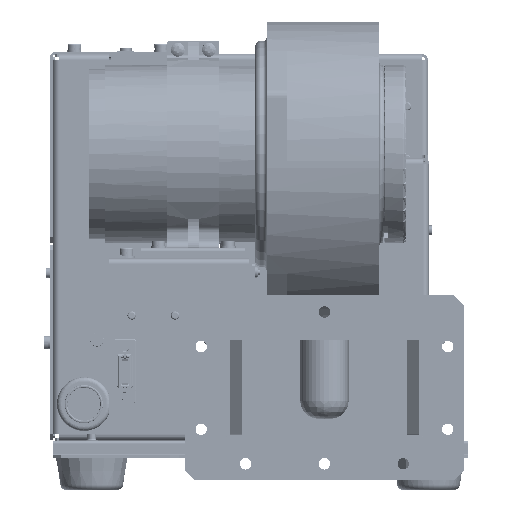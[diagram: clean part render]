
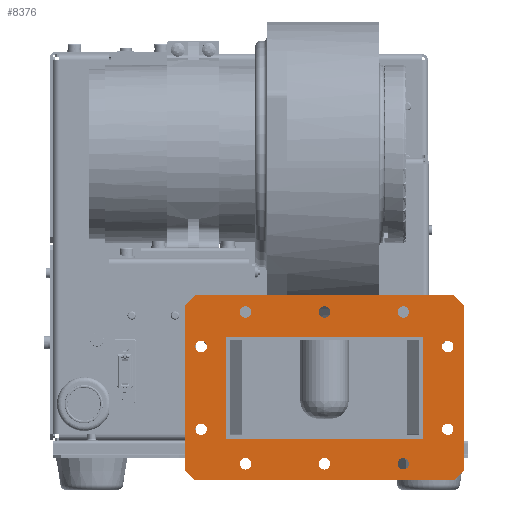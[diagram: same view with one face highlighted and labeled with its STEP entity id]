
A CAD part, front view. The second image highlights one B-rep face of the part: STEP entity #8376.
In plain terms, the highlighted planar face has unit normal (0, -1, 0) as drawn and (0, 0, 1) by its records, which use the part's own axes.
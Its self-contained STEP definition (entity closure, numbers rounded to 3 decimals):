
#8376=ADVANCED_FACE('',(#18040,#18041,#18042,#18043,#18044,#18045,#18046,#18047,#18048,#18049,#18050,#18051),#18052,.T.);
#18040=FACE_BOUND('',#30594,.T.);
#18041=FACE_BOUND('',#30595,.T.);
#18042=FACE_BOUND('',#30596,.T.);
#18043=FACE_BOUND('',#30597,.T.);
#18044=FACE_BOUND('',#30598,.T.);
#18045=FACE_BOUND('',#30599,.T.);
#18046=FACE_BOUND('',#30600,.T.);
#18047=FACE_BOUND('',#30601,.T.);
#18048=FACE_BOUND('',#30602,.T.);
#18049=FACE_BOUND('',#30603,.T.);
#18050=FACE_OUTER_BOUND('',#30604,.T.);
#18051=FACE_BOUND('',#30605,.T.);
#18052=PLANE('',#30606);
#30594=EDGE_LOOP('',(#47385));
#30595=EDGE_LOOP('',(#47386));
#30596=EDGE_LOOP('',(#47387));
#30597=EDGE_LOOP('',(#47388));
#30598=EDGE_LOOP('',(#47389));
#30599=EDGE_LOOP('',(#47390));
#30600=EDGE_LOOP('',(#47391));
#30601=EDGE_LOOP('',(#47392));
#30602=EDGE_LOOP('',(#47393));
#30603=EDGE_LOOP('',(#47394));
#30604=EDGE_LOOP('',(#47395,#47396,#47397,#47398,#47399,#47400,#47401,#47402));
#30605=EDGE_LOOP('',(#47403,#47404,#47405,#47406));
#30606=AXIS2_PLACEMENT_3D('',#47407,#47408,#47409);
#47385=ORIENTED_EDGE('',*,*,#74450,.T.);
#47386=ORIENTED_EDGE('',*,*,#74451,.T.);
#47387=ORIENTED_EDGE('',*,*,#74452,.T.);
#47388=ORIENTED_EDGE('',*,*,#74453,.T.);
#47389=ORIENTED_EDGE('',*,*,#74454,.T.);
#47390=ORIENTED_EDGE('',*,*,#74455,.T.);
#47391=ORIENTED_EDGE('',*,*,#74456,.T.);
#47392=ORIENTED_EDGE('',*,*,#74457,.T.);
#47393=ORIENTED_EDGE('',*,*,#74458,.T.);
#47394=ORIENTED_EDGE('',*,*,#74459,.T.);
#47395=ORIENTED_EDGE('',*,*,#74460,.T.);
#47396=ORIENTED_EDGE('',*,*,#74461,.T.);
#47397=ORIENTED_EDGE('',*,*,#74462,.T.);
#47398=ORIENTED_EDGE('',*,*,#74435,.T.);
#47399=ORIENTED_EDGE('',*,*,#74463,.T.);
#47400=ORIENTED_EDGE('',*,*,#74440,.T.);
#47401=ORIENTED_EDGE('',*,*,#74464,.T.);
#47402=ORIENTED_EDGE('',*,*,#74445,.T.);
#47403=ORIENTED_EDGE('',*,*,#74465,.T.);
#47404=ORIENTED_EDGE('',*,*,#74466,.T.);
#47405=ORIENTED_EDGE('',*,*,#74467,.T.);
#47406=ORIENTED_EDGE('',*,*,#74468,.T.);
#47407=CARTESIAN_POINT('',(-25.0,-19.444,7.0));
#47408=DIRECTION('',(0.0,0.0,1.0));
#47409=DIRECTION('',(1.0,0.0,0.0));
#74435=EDGE_CURVE('',#84312,#84313,#84314,.F.);
#74440=EDGE_CURVE('',#84321,#84322,#84323,.F.);
#74445=EDGE_CURVE('',#84330,#84331,#84332,.F.);
#74450=EDGE_CURVE('',#84339,#84339,#84340,.F.);
#74451=EDGE_CURVE('',#84341,#84341,#84342,.F.);
#74452=EDGE_CURVE('',#84343,#84343,#84344,.F.);
#74453=EDGE_CURVE('',#84345,#84345,#84346,.F.);
#74454=EDGE_CURVE('',#84347,#84347,#84348,.F.);
#74455=EDGE_CURVE('',#84349,#84349,#84350,.F.);
#74456=EDGE_CURVE('',#84351,#84351,#84352,.F.);
#74457=EDGE_CURVE('',#84353,#84353,#84354,.F.);
#74458=EDGE_CURVE('',#84355,#84355,#84356,.F.);
#74459=EDGE_CURVE('',#84357,#84357,#84358,.F.);
#74460=EDGE_CURVE('',#84331,#84359,#84360,.T.);
#74461=EDGE_CURVE('',#84359,#84361,#84362,.F.);
#74462=EDGE_CURVE('',#84361,#84312,#84363,.T.);
#74463=EDGE_CURVE('',#84313,#84321,#84364,.T.);
#74464=EDGE_CURVE('',#84322,#84330,#84365,.T.);
#74465=EDGE_CURVE('',#84366,#84367,#84368,.T.);
#74466=EDGE_CURVE('',#84367,#84369,#84370,.T.);
#74467=EDGE_CURVE('',#84369,#84371,#84372,.T.);
#74468=EDGE_CURVE('',#84371,#84366,#84373,.T.);
#84312=VERTEX_POINT('',#98393);
#84313=VERTEX_POINT('',#98394);
#84314=LINE('',#98395,#98396);
#84321=VERTEX_POINT('',#98406);
#84322=VERTEX_POINT('',#98407);
#84323=LINE('',#98408,#98409);
#84330=VERTEX_POINT('',#98419);
#84331=VERTEX_POINT('',#98420);
#84332=LINE('',#98421,#98422);
#84339=VERTEX_POINT('',#98432);
#84340=CIRCLE('',#98433,3.3);
#84341=VERTEX_POINT('',#98434);
#84342=CIRCLE('',#98435,3.3);
#84343=VERTEX_POINT('',#98436);
#84344=CIRCLE('',#98437,3.3);
#84345=VERTEX_POINT('',#98438);
#84346=CIRCLE('',#98439,3.3);
#84347=VERTEX_POINT('',#98440);
#84348=CIRCLE('',#98441,3.3);
#84349=VERTEX_POINT('',#98442);
#84350=CIRCLE('',#98443,3.3);
#84351=VERTEX_POINT('',#98444);
#84352=CIRCLE('',#98445,3.3);
#84353=VERTEX_POINT('',#98446);
#84354=CIRCLE('',#98447,3.3);
#84355=VERTEX_POINT('',#98448);
#84356=CIRCLE('',#98449,3.3);
#84357=VERTEX_POINT('',#98450);
#84358=CIRCLE('',#98451,3.3);
#84359=VERTEX_POINT('',#98452);
#84360=LINE('',#98453,#98454);
#84361=VERTEX_POINT('',#98455);
#84362=LINE('',#98456,#98457);
#84363=LINE('',#98458,#98459);
#84364=LINE('',#98460,#98461);
#84365=LINE('',#98462,#98463);
#84366=VERTEX_POINT('',#98464);
#84367=VERTEX_POINT('',#98465);
#84368=LINE('',#98466,#98467);
#84369=VERTEX_POINT('',#98468);
#84370=LINE('',#98469,#98470);
#84371=VERTEX_POINT('',#98471);
#84372=LINE('',#98472,#98473);
#84373=LINE('',#98474,#98475);
#98393=CARTESIAN_POINT('',(130.0,-19.444,7.0));
#98394=CARTESIAN_POINT('',(136.0,-13.444,7.0));
#98395=CARTESIAN_POINT('',(52.5,-96.944,7.0));
#98396=VECTOR('',#119460,1.0);
#98406=CARTESIAN_POINT('',(136.0,81.056,7.0));
#98407=CARTESIAN_POINT('',(130.0,87.056,7.0));
#98408=CARTESIAN_POINT('',(105.75,111.306,7.0));
#98409=VECTOR('',#119464,1.0);
#98419=CARTESIAN_POINT('',(-19.0,87.056,7.0));
#98420=CARTESIAN_POINT('',(-25.0,81.056,7.0));
#98421=CARTESIAN_POINT('',(-75.25,30.806,7.0));
#98422=VECTOR('',#119468,1.0);
#98432=CARTESIAN_POINT('',(129.8,10.006,7.0));
#98433=AXIS2_PLACEMENT_3D('',#119472,#119473,#119474);
#98434=CARTESIAN_POINT('',(-12.2,10.006,7.0));
#98435=AXIS2_PLACEMENT_3D('',#119475,#119476,#119477);
#98436=CARTESIAN_POINT('',(129.8,57.606,7.0));
#98437=AXIS2_PLACEMENT_3D('',#119478,#119479,#119480);
#98438=CARTESIAN_POINT('',(-12.2,57.606,7.0));
#98439=AXIS2_PLACEMENT_3D('',#119481,#119482,#119483);
#98440=CARTESIAN_POINT('',(104.2,-9.894,7.0));
#98441=AXIS2_PLACEMENT_3D('',#119484,#119485,#119486);
#98442=CARTESIAN_POINT('',(58.8,-9.894,7.0));
#98443=AXIS2_PLACEMENT_3D('',#119487,#119488,#119489);
#98444=CARTESIAN_POINT('',(13.4,-9.894,7.0));
#98445=AXIS2_PLACEMENT_3D('',#119490,#119491,#119492);
#98446=CARTESIAN_POINT('',(104.2,77.506,7.0));
#98447=AXIS2_PLACEMENT_3D('',#119493,#119494,#119495);
#98448=CARTESIAN_POINT('',(58.8,77.506,7.0));
#98449=AXIS2_PLACEMENT_3D('',#119496,#119497,#119498);
#98450=CARTESIAN_POINT('',(13.4,77.506,7.0));
#98451=AXIS2_PLACEMENT_3D('',#119499,#119500,#119501);
#98452=CARTESIAN_POINT('',(-25.0,-13.444,7.0));
#98453=CARTESIAN_POINT('',(-25.0,87.056,7.0));
#98454=VECTOR('',#119502,1.0);
#98455=CARTESIAN_POINT('',(-19.0,-19.444,7.0));
#98456=CARTESIAN_POINT('',(-22.0,-16.444,7.0));
#98457=VECTOR('',#119503,1.0);
#98458=CARTESIAN_POINT('',(-25.0,-19.444,7.0));
#98459=VECTOR('',#119504,1.0);
#98460=CARTESIAN_POINT('',(136.0,-19.444,7.0));
#98461=VECTOR('',#119505,1.0);
#98462=CARTESIAN_POINT('',(136.0,87.056,7.0));
#98463=VECTOR('',#119506,1.0);
#98464=CARTESIAN_POINT('',(112.1,4.506,7.));
#98465=CARTESIAN_POINT('',(-1.1,4.506,7.0));
#98466=CARTESIAN_POINT('',(112.1,4.506,7.));
#98467=VECTOR('',#119507,1.0);
#98468=CARTESIAN_POINT('',(-1.1,63.106,7.));
#98469=CARTESIAN_POINT('',(-1.1,4.506,7.));
#98470=VECTOR('',#119508,1.0);
#98471=CARTESIAN_POINT('',(112.1,63.106,7.));
#98472=CARTESIAN_POINT('',(-1.1,63.106,7.));
#98473=VECTOR('',#119509,1.0);
#98474=CARTESIAN_POINT('',(112.1,63.106,7.));
#98475=VECTOR('',#119510,1.0);
#119460=DIRECTION('',(-0.707,-0.707,0.0));
#119464=DIRECTION('',(0.707,-0.707,0.0));
#119468=DIRECTION('',(0.707,0.707,0.0));
#119472=CARTESIAN_POINT('',(126.5,10.006,7.0));
#119473=DIRECTION('',(0.0,0.0,1.0));
#119474=DIRECTION('',(1.0,0.0,0.0));
#119475=CARTESIAN_POINT('',(-15.5,10.006,7.0));
#119476=DIRECTION('',(0.0,0.0,1.0));
#119477=DIRECTION('',(1.0,0.0,0.0));
#119478=CARTESIAN_POINT('',(126.5,57.606,7.0));
#119479=DIRECTION('',(0.0,0.0,1.0));
#119480=DIRECTION('',(1.0,0.0,0.0));
#119481=CARTESIAN_POINT('',(-15.5,57.606,7.0));
#119482=DIRECTION('',(0.0,0.0,1.0));
#119483=DIRECTION('',(1.0,0.0,0.0));
#119484=CARTESIAN_POINT('',(100.9,-9.894,7.0));
#119485=DIRECTION('',(0.0,0.0,1.0));
#119486=DIRECTION('',(1.0,0.0,0.0));
#119487=CARTESIAN_POINT('',(55.5,-9.894,7.0));
#119488=DIRECTION('',(0.0,0.0,1.0));
#119489=DIRECTION('',(1.0,0.0,0.0));
#119490=CARTESIAN_POINT('',(10.1,-9.894,7.0));
#119491=DIRECTION('',(0.0,0.0,1.0));
#119492=DIRECTION('',(1.0,0.0,0.0));
#119493=CARTESIAN_POINT('',(100.9,77.506,7.0));
#119494=DIRECTION('',(0.0,0.0,1.0));
#119495=DIRECTION('',(1.0,0.0,0.0));
#119496=CARTESIAN_POINT('',(55.5,77.506,7.0));
#119497=DIRECTION('',(0.0,0.0,1.0));
#119498=DIRECTION('',(1.0,0.0,0.0));
#119499=CARTESIAN_POINT('',(10.1,77.506,7.0));
#119500=DIRECTION('',(0.0,0.0,1.0));
#119501=DIRECTION('',(1.0,0.0,0.0));
#119502=DIRECTION('',(0.0,-1.0,0.0));
#119503=DIRECTION('',(-0.707,0.707,0.0));
#119504=DIRECTION('',(1.0,0.0,0.0));
#119505=DIRECTION('',(0.0,1.0,0.0));
#119506=DIRECTION('',(-1.0,0.0,0.0));
#119507=DIRECTION('',(-1.0,0.0,0.0));
#119508=DIRECTION('',(0.0,1.0,0.0));
#119509=DIRECTION('',(1.0,0.0,0.0));
#119510=DIRECTION('',(0.0,-1.0,0.0));
